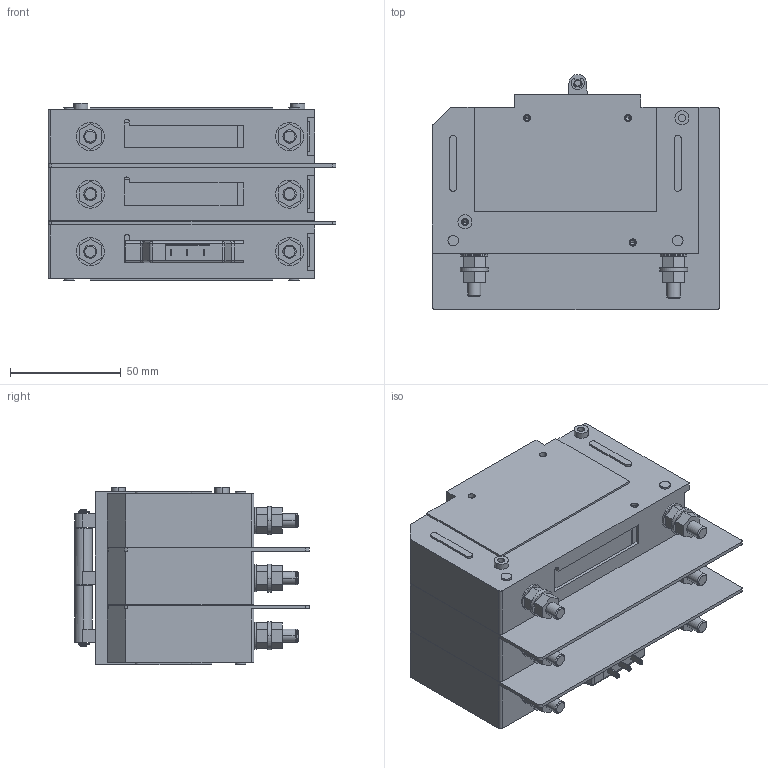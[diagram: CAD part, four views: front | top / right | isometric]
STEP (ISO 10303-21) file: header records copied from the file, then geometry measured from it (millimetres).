
FILE_DESCRIPTION((''),'2;1');
FILE_NAME('ER3-450-24-B-A1-2-BB-_SW0003','2012-08-21T',('danboyden'),(''),'PRO/ENGINEER BY PARAMETRIC TECHNOLOGY CORPORATION, 2010280','PRO/ENGINEER BY PARAMETRIC TECHNOLOGY CORPORATION, 2010280','');
FILE_SCHEMA(('CONFIG_CONTROL_DESIGN'));
Length unit declared in the file: inch
Products named in the file (1): ER3-450-24-B-A1-2-BB-_SW0003
Bounding box: 130.18 x 106.3 x 80.09 mm (x, y, z)
Volume: 628478.3 mm3; surface area: 122253.6 mm2
Topology: 11 solids, 11 shells, 1915 faces, 5208 edges, 3422 vertices
Faces by surface type: plane 1139, cylinder 504, bspline 216, cone 32, sphere 14, torus 10
Entity records: 64431 total; most frequent: CARTESIAN_POINT 15495, ORIENTED_EDGE 10380, DIRECTION 9747, EDGE_CURVE 5190, VECTOR 4031, LINE 4031, VERTEX_POINT 3422, AXIS2_PLACEMENT_3D 2858
